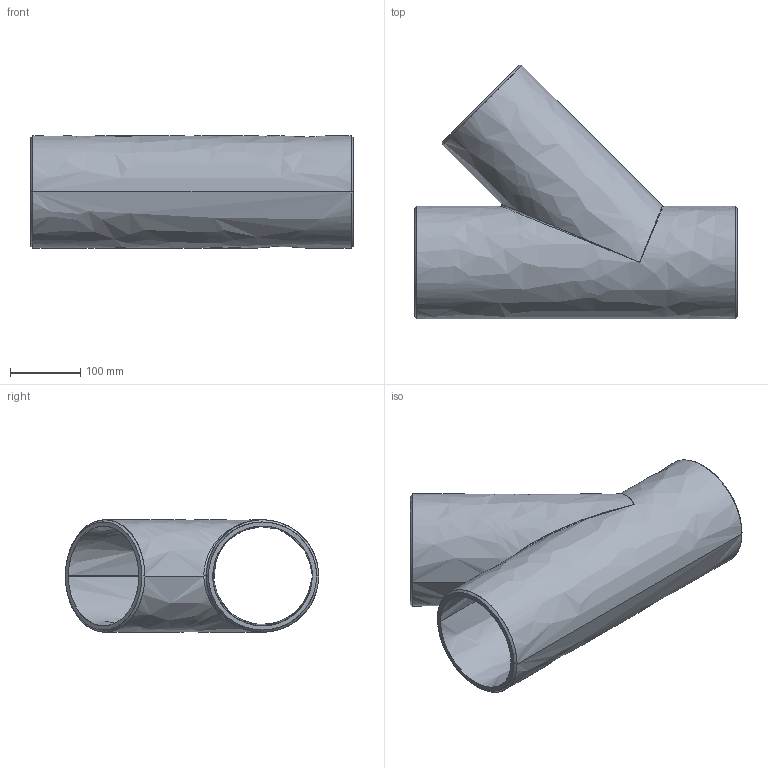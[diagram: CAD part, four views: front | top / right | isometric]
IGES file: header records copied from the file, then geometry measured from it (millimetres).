
Start section:  PTC IGES file: ats45_d160.igs
Global section: file name: ats45_d160.igs; native system: Pro/ENGINEER by Parametric Technology Corporation; preprocessor: 2011490; author: mtunjic; organization: Unknown; date: 20130724.093606; units: millimetre
Bounding box: 459 x 360.72 x 160 mm (x, y, z)
Surface area: 664268.4 mm2 (no closed solid volume)
Topology: 0 solids, 0 shells, 22 faces, 106 edges, 106 vertices
Faces by surface type: bspline 22
